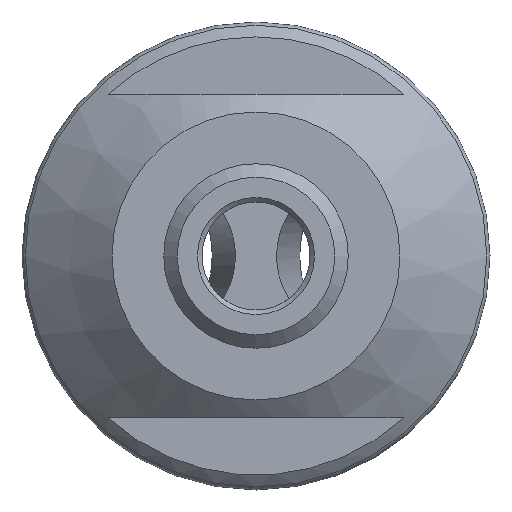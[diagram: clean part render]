
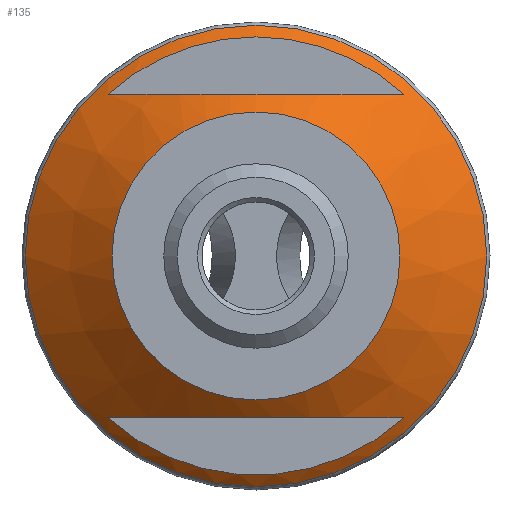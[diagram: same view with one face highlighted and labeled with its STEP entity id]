
A CAD part, front view. The second image highlights one B-rep face of the part: STEP entity #135.
In plain terms, the highlighted conical face has half-angle 50 degrees and reference radius 25.643 mm.
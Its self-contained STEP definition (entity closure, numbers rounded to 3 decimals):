
#121=CONICAL_SURFACE('',#406,25.643,50.);
#135=ADVANCED_FACE('',(#189,#190,#191,#192),#121,.T.);
#162=CIRCLE('',#401,25.643);
#163=CIRCLE('',#403,24.342);
#164=CIRCLE('',#404,24.342);
#165=CIRCLE('',#405,16.);
#189=FACE_BOUND('',#224,.T.);
#190=FACE_BOUND('',#225,.T.);
#191=FACE_BOUND('',#226,.T.);
#192=FACE_BOUND('',#227,.T.);
#224=EDGE_LOOP('',(#272,#273));
#225=EDGE_LOOP('',(#274,#275));
#226=EDGE_LOOP('',(#276));
#227=EDGE_LOOP('',(#277));
#272=ORIENTED_EDGE('',*,*,#359,.F.);
#273=ORIENTED_EDGE('',*,*,#360,.F.);
#274=ORIENTED_EDGE('',*,*,#361,.F.);
#275=ORIENTED_EDGE('',*,*,#362,.F.);
#276=ORIENTED_EDGE('',*,*,#363,.T.);
#277=ORIENTED_EDGE('',*,*,#358,.F.);
#330=VERTEX_POINT('',#1161);
#331=VERTEX_POINT('',#1164);
#332=VERTEX_POINT('',#1165);
#333=VERTEX_POINT('',#1177);
#334=VERTEX_POINT('',#1178);
#335=VERTEX_POINT('',#1190);
#358=EDGE_CURVE('',#330,#330,#162,.T.);
#359=EDGE_CURVE('',#331,#332,#163,.T.);
#360=EDGE_CURVE('',#332,#331,#381,.T.);
#361=EDGE_CURVE('',#333,#334,#164,.T.);
#362=EDGE_CURVE('',#334,#333,#382,.T.);
#363=EDGE_CURVE('',#335,#335,#165,.T.);
#381=B_SPLINE_CURVE_WITH_KNOTS('',3,(#1166,#1167,#1168,#1169,#1170,#1171,
#1172,#1173,#1174,#1175),.UNSPECIFIED.,.F.,.F.,(4,2,2,2,4),(0.,0.25,0.5,
0.75,1.),.UNSPECIFIED.);
#382=B_SPLINE_CURVE_WITH_KNOTS('',3,(#1179,#1180,#1181,#1182,#1183,#1184,
#1185,#1186,#1187,#1188),.UNSPECIFIED.,.F.,.F.,(4,2,2,2,4),(0.,0.25,0.5,
0.75,1.),.UNSPECIFIED.);
#401=AXIS2_PLACEMENT_3D('',#1160,#458,#459);
#403=AXIS2_PLACEMENT_3D('',#1163,#462,#463);
#404=AXIS2_PLACEMENT_3D('',#1176,#464,#465);
#405=AXIS2_PLACEMENT_3D('',#1189,#466,#467);
#406=AXIS2_PLACEMENT_3D('',#1191,#468,#469);
#458=DIRECTION('',(0.,1.,0.));
#459=DIRECTION('',(0.,0.,1.));
#462=DIRECTION('',(0.,-1.,0.));
#463=DIRECTION('',(0.,0.,1.));
#464=DIRECTION('',(0.,-1.,0.));
#465=DIRECTION('',(0.,0.,1.));
#466=DIRECTION('',(0.,1.,0.));
#467=DIRECTION('',(0.,0.,1.));
#468=DIRECTION('',(0.,1.,0.));
#469=DIRECTION('',(0.,0.,1.));
#1160=CARTESIAN_POINT('',(0.,22.091,0.));
#1161=CARTESIAN_POINT('',(0.,22.091,25.643));
#1163=CARTESIAN_POINT('',(0.,21.,0.));
#1164=CARTESIAN_POINT('',(-16.387,21.,-18.));
#1165=CARTESIAN_POINT('',(16.387,21.,-18.));
#1166=CARTESIAN_POINT('',(16.387,21.,-18.));
#1167=CARTESIAN_POINT('',(13.864,19.575,-18.));
#1168=CARTESIAN_POINT('',(11.277,18.276,-18.));
#1169=CARTESIAN_POINT('',(5.792,16.304,-18.));
#1170=CARTESIAN_POINT('',(2.894,15.675,-18.));
#1171=CARTESIAN_POINT('',(-2.938,15.681,-18.));
#1172=CARTESIAN_POINT('',(-5.836,16.319,-18.));
#1173=CARTESIAN_POINT('',(-11.248,18.266,-18.));
#1174=CARTESIAN_POINT('',(-13.857,19.571,-18.));
#1175=CARTESIAN_POINT('',(-16.387,21.,-18.));
#1176=CARTESIAN_POINT('',(0.,21.,0.));
#1177=CARTESIAN_POINT('',(16.387,21.,18.));
#1178=CARTESIAN_POINT('',(-16.387,21.,18.));
#1179=CARTESIAN_POINT('',(-16.387,21.,18.));
#1180=CARTESIAN_POINT('',(-13.857,19.571,18.));
#1181=CARTESIAN_POINT('',(-11.248,18.266,18.));
#1182=CARTESIAN_POINT('',(-5.836,16.319,18.));
#1183=CARTESIAN_POINT('',(-2.938,15.681,18.));
#1184=CARTESIAN_POINT('',(2.894,15.675,18.));
#1185=CARTESIAN_POINT('',(5.792,16.304,18.));
#1186=CARTESIAN_POINT('',(11.277,18.276,18.));
#1187=CARTESIAN_POINT('',(13.864,19.575,18.));
#1188=CARTESIAN_POINT('',(16.387,21.,18.));
#1189=CARTESIAN_POINT('',(0.,14.,0.));
#1190=CARTESIAN_POINT('',(0.,14.,16.));
#1191=CARTESIAN_POINT('',(0.,22.091,0.));
